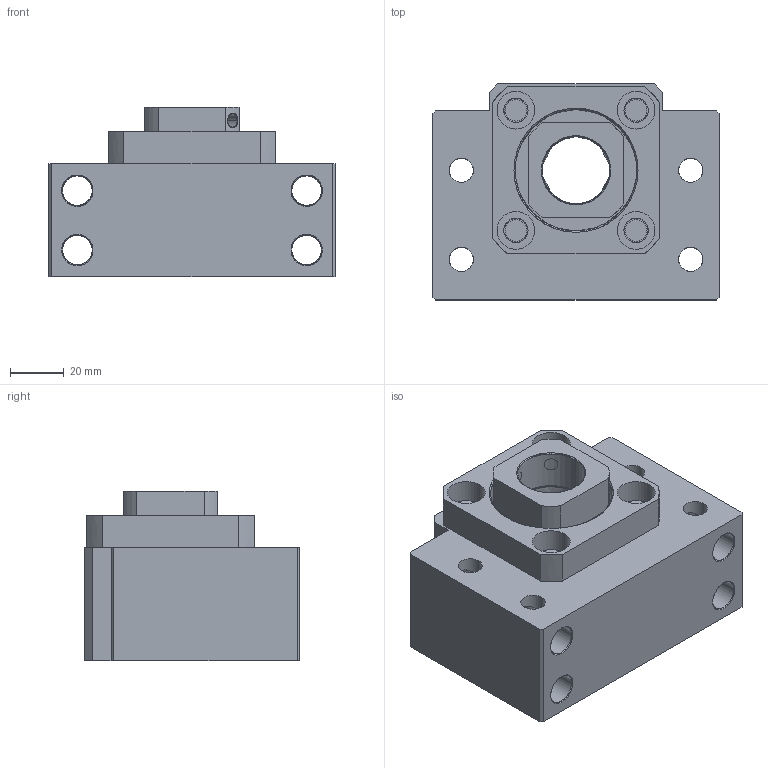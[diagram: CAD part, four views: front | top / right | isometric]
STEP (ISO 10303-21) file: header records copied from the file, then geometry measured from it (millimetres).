
FILE_DESCRIPTION((''),'2;1');
FILE_NAME('bk25','2004-09-18T11:13:35',(''),(''),'CADlook_v7.0','Cimatron E by Cimatron Inc.','');
FILE_SCHEMA(('AUTOMOTIVE_DESIGN { 1 2 10303 214 0 1 1 1 }'));
Length unit declared in the file: millimetre
Products named in the file (2): geom set
Bounding box: 106 x 80 x 63 mm (x, y, z)
Surface area: 81749.5 mm2 (no closed solid volume)
Topology: 0 solids, 223 shells, 223 faces, 1542 edges, 2056 vertices
Faces by surface type: cylinder 72, bspline 66, plane 51, torus 32, cone 2
Entity records: 28043 total; most frequent: CARTESIAN_POINT 11121, DIRECTION 2270, VERTEX_POINT 1028, EDGE_CURVE 1028, ORIENTED_EDGE 1028, COLOUR_RGB 960, PRESENTATION_STYLE_ASSIGNMENT 960, STYLED_ITEM 960
